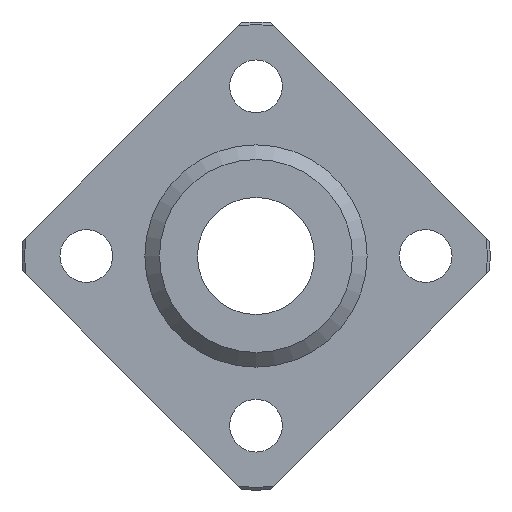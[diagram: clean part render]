
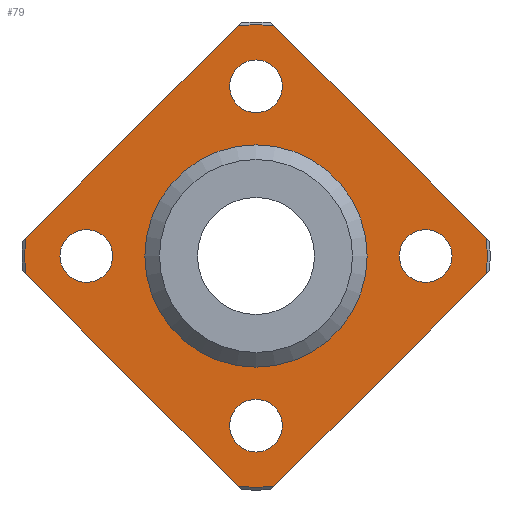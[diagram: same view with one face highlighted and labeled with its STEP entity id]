
A CAD part, left-side view. The second image highlights one B-rep face of the part: STEP entity #79.
In plain terms, the highlighted planar face has unit normal (-1, 0, 0).
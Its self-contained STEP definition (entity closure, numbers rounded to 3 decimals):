
#79=ADVANCED_FACE('',(#119,#120,#121,#122,#123,#124),#125,.F.);
#119=FACE_BOUND('',#213,.T.);
#120=FACE_BOUND('',#214,.T.);
#121=FACE_BOUND('',#215,.T.);
#122=FACE_BOUND('',#216,.T.);
#123=FACE_BOUND('',#217,.T.);
#124=FACE_OUTER_BOUND('',#218,.T.);
#125=PLANE('',#219);
#213=EDGE_LOOP('',(#332));
#214=EDGE_LOOP('',(#333));
#215=EDGE_LOOP('',(#334));
#216=EDGE_LOOP('',(#335));
#217=EDGE_LOOP('',(#336));
#218=EDGE_LOOP('',(#337,#338,#339,#340,#341,#342,#343,#344));
#219=AXIS2_PLACEMENT_3D('',#345,#346,#347);
#332=ORIENTED_EDGE('',*,*,#559,.T.);
#333=ORIENTED_EDGE('',*,*,#560,.T.);
#334=ORIENTED_EDGE('',*,*,#561,.T.);
#335=ORIENTED_EDGE('',*,*,#562,.T.);
#336=ORIENTED_EDGE('',*,*,#558,.F.);
#337=ORIENTED_EDGE('',*,*,#563,.T.);
#338=ORIENTED_EDGE('',*,*,#540,.T.);
#339=ORIENTED_EDGE('',*,*,#564,.T.);
#340=ORIENTED_EDGE('',*,*,#565,.T.);
#341=ORIENTED_EDGE('',*,*,#566,.T.);
#342=ORIENTED_EDGE('',*,*,#551,.T.);
#343=ORIENTED_EDGE('',*,*,#567,.T.);
#344=ORIENTED_EDGE('',*,*,#568,.T.);
#345=CARTESIAN_POINT('',(-9.0,19.746,0.0));
#346=DIRECTION('',(1.0,0.0,0.0));
#347=DIRECTION('',(0.0,0.0,-1.0));
#540=EDGE_CURVE('',#612,#610,#613,.T.);
#551=EDGE_CURVE('',#633,#631,#634,.T.);
#558=EDGE_CURVE('',#646,#646,#647,.T.);
#559=EDGE_CURVE('',#648,#648,#649,.T.);
#560=EDGE_CURVE('',#650,#650,#651,.T.);
#561=EDGE_CURVE('',#652,#652,#653,.T.);
#562=EDGE_CURVE('',#654,#654,#655,.T.);
#563=EDGE_CURVE('',#656,#612,#657,.T.);
#564=EDGE_CURVE('',#610,#658,#659,.T.);
#565=EDGE_CURVE('',#658,#660,#661,.T.);
#566=EDGE_CURVE('',#660,#633,#662,.T.);
#567=EDGE_CURVE('',#631,#663,#664,.T.);
#568=EDGE_CURVE('',#663,#656,#665,.T.);
#610=VERTEX_POINT('',#733);
#612=VERTEX_POINT('',#738);
#613=LINE('',#739,#740);
#631=VERTEX_POINT('',#773);
#633=VERTEX_POINT('',#778);
#634=LINE('',#779,#780);
#646=VERTEX_POINT('',#803);
#647=CIRCLE('',#804,9.5);
#648=VERTEX_POINT('',#805);
#649=CIRCLE('',#806,2.25);
#650=VERTEX_POINT('',#807);
#651=CIRCLE('',#808,2.25);
#652=VERTEX_POINT('',#809);
#653=CIRCLE('',#810,2.25);
#654=VERTEX_POINT('',#811);
#655=CIRCLE('',#812,2.25);
#656=VERTEX_POINT('',#813);
#657=CIRCLE('',#814,19.746);
#658=VERTEX_POINT('',#815);
#659=CIRCLE('',#816,19.746);
#660=VERTEX_POINT('',#817);
#661=LINE('',#818,#819);
#662=CIRCLE('',#820,19.746);
#663=VERTEX_POINT('',#821);
#664=CIRCLE('',#822,19.746);
#665=LINE('',#823,#824);
#733=CARTESIAN_POINT('',(-9.0,-19.687,-1.526));
#738=CARTESIAN_POINT('',(-9.0,-1.526,-19.687));
#739=CARTESIAN_POINT('',(-9.0,-0.734,-20.48));
#740=VECTOR('',#916,1.0);
#773=CARTESIAN_POINT('',(-9.0,19.687,1.526));
#778=CARTESIAN_POINT('',(-9.0,1.526,19.687));
#779=CARTESIAN_POINT('',(-9.0,20.48,0.734));
#780=VECTOR('',#926,1.0);
#803=CARTESIAN_POINT('',(-9.0,0.0,9.5));
#804=AXIS2_PLACEMENT_3D('',#932,#933,#934);
#805=CARTESIAN_POINT('',(-9.0,14.5,-2.25));
#806=AXIS2_PLACEMENT_3D('',#935,#936,#937);
#807=CARTESIAN_POINT('',(-9.0,0.0,-16.75));
#808=AXIS2_PLACEMENT_3D('',#938,#939,#940);
#809=CARTESIAN_POINT('',(-9.0,-14.5,-2.25));
#810=AXIS2_PLACEMENT_3D('',#941,#942,#943);
#811=CARTESIAN_POINT('',(-9.0,0.0,12.25));
#812=AXIS2_PLACEMENT_3D('',#944,#945,#946);
#813=CARTESIAN_POINT('',(-9.0,1.526,-19.687));
#814=AXIS2_PLACEMENT_3D('',#947,#948,#949);
#815=CARTESIAN_POINT('',(-9.0,-19.687,1.526));
#816=AXIS2_PLACEMENT_3D('',#950,#951,#952);
#817=CARTESIAN_POINT('',(-9.0,-1.526,19.687));
#818=CARTESIAN_POINT('',(-9.0,-0.734,20.48));
#819=VECTOR('',#953,1.0);
#820=AXIS2_PLACEMENT_3D('',#954,#955,#956);
#821=CARTESIAN_POINT('',(-9.0,19.687,-1.526));
#822=AXIS2_PLACEMENT_3D('',#957,#958,#959);
#823=CARTESIAN_POINT('',(-9.0,20.48,-0.734));
#824=VECTOR('',#960,1.0);
#916=DIRECTION('',(0.0,-0.707,0.707));
#926=DIRECTION('',(0.0,0.707,-0.707));
#932=CARTESIAN_POINT('',(-9.0,0.0,0.0));
#933=DIRECTION('',(-1.0,0.0,0.0));
#934=DIRECTION('',(0.0,0.0,1.0));
#935=CARTESIAN_POINT('',(-9.0,14.5,0.0));
#936=DIRECTION('',(1.0,0.0,0.0));
#937=DIRECTION('',(0.0,0.0,-1.0));
#938=CARTESIAN_POINT('',(-9.0,0.0,-14.5));
#939=DIRECTION('',(1.0,0.0,0.0));
#940=DIRECTION('',(0.0,0.0,-1.0));
#941=CARTESIAN_POINT('',(-9.0,-14.5,0.0));
#942=DIRECTION('',(1.0,0.0,0.0));
#943=DIRECTION('',(0.0,0.0,-1.0));
#944=CARTESIAN_POINT('',(-9.0,0.0,14.5));
#945=DIRECTION('',(1.0,0.0,0.0));
#946=DIRECTION('',(0.0,0.0,-1.0));
#947=CARTESIAN_POINT('',(-9.0,0.0,0.0));
#948=DIRECTION('',(-1.0,0.0,0.0));
#949=DIRECTION('',(0.0,0.0,1.0));
#950=CARTESIAN_POINT('',(-9.0,0.0,0.0));
#951=DIRECTION('',(-1.0,0.0,0.0));
#952=DIRECTION('',(0.0,0.0,1.0));
#953=DIRECTION('',(0.0,0.707,0.707));
#954=CARTESIAN_POINT('',(-9.0,0.0,0.0));
#955=DIRECTION('',(-1.0,0.0,0.0));
#956=DIRECTION('',(0.0,0.0,1.0));
#957=CARTESIAN_POINT('',(-9.0,0.0,0.0));
#958=DIRECTION('',(-1.0,0.0,0.0));
#959=DIRECTION('',(0.0,0.0,1.0));
#960=DIRECTION('',(0.0,-0.707,-0.707));
